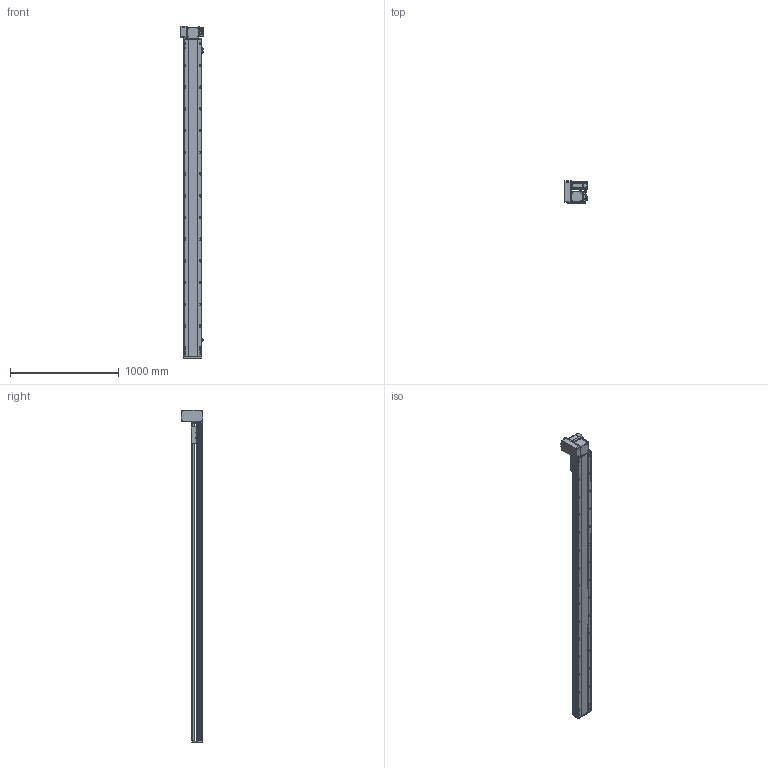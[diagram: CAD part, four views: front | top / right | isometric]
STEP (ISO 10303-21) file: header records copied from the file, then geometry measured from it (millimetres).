
FILE_DESCRIPTION (( 'STEP AP214' ), '1' );
FILE_NAME ('RTB17S-XX-2650-LW-M75-C4.STEP', '2025-12-12T01:18:14', ( '' ), ( '' ), 'SwSTEP 2.0', 'SolidWorks 2018', '' );
FILE_SCHEMA (( 'AUTOMOTIVE_DESIGN' ));
Length unit declared in the file: millimetre
Products named in the file (15): RTB17S-XX-2650-LW-M75-C4; RTB17S-L-001-耜醱啣^RTB17S-XX-XX-LW-M75-C4; RTH13-BL-012覜茼え俋离^RTB17S-賑釱_RTB17S-XX-XX-LW-M75-C4; RTB22S-GY-017P^RTB17S-LW-々湍釱蚾饜-750W_RTB17S-XX-XX-LW-M75-C4; 750W萇儂^RTB17S-XX-XX-LW-M75-C4; RTB22S-GY-008-M75--萇儂啣^RTB17S-LW-々湍釱蚾饜-750W_RTB17S-XX-XX-LW-M75-C4; RTB22S-GY-018P^RTB17S-LW-々湍釱蚾饜-750W_RTB17S-XX-XX-LW-M75-C4; RTB17S-L-004-賑釱^RTB17S-賑釱_RTB17S-XX-XX-LW-M75-C4; RTB17-R-011菁釱^RTB17S-XX-XX-LW-M75-C4; RTB17S-L-007奻裔^RTB17S-XX-XX-LW-M75-C4; EE672^RTB17S-XX-XX-LW-M75-C4; RTB22S-GY-005P^RTB17S-LW-々湍釱蚾饜-750W_RTB17S-XX-XX-LW-M75-C4; RTB17S-LW-々湍釱蚾饜-750W^RTB17S-XX-XX-LW-M75-C4; RTB17S-賑釱^RTB17S-XX-XX-LW-M75-C4; RTB17S-L-014-T20-P75--々湍釱^RTB17S-LW-々湍釱蚾饜-750W_RTB17S-XX-XX-LW-M75-C4
Assembly tree (17 placements, depth 3):
  RTB17S-XX-2650-LW-M75-C4
    RTB17-R-011菁釱^RTB17S-XX-XX-LW-M75-C4
    EE672^RTB17S-XX-XX-LW-M75-C4  x3
    RTB17S-L-001-耜醱啣^RTB17S-XX-XX-LW-M75-C4
    RTB17S-賑釱^RTB17S-XX-XX-LW-M75-C4
      RTB17S-L-004-賑釱^RTB17S-賑釱_RTB17S-XX-XX-LW-M75-C4
      RTH13-BL-012覜茼え俋离^RTB17S-賑釱_RTB17S-XX-XX-LW-M75-C4
    RTB17S-L-007奻裔^RTB17S-XX-XX-LW-M75-C4
    750W萇儂^RTB17S-XX-XX-LW-M75-C4
    RTB17S-LW-々湍釱蚾饜-750W^RTB17S-XX-XX-LW-M75-C4
      RTB17S-L-014-T20-P75--々湍釱^RTB17S-LW-々湍釱蚾饜-750W_RTB17S-XX-XX-LW-M75-C4
      RTB22S-GY-005P^RTB17S-LW-々湍釱蚾饜-750W_RTB17S-XX-XX-LW-M75-C4
      RTB22S-GY-017P^RTB17S-LW-々湍釱蚾饜-750W_RTB17S-XX-XX-LW-M75-C4  x2
      RTB22S-GY-008-M75--萇儂啣^RTB17S-LW-々湍釱蚾饜-750W_RTB17S-XX-XX-LW-M75-C4
      RTB22S-GY-018P^RTB17S-LW-々湍釱蚾饜-750W_RTB17S-XX-XX-LW-M75-C4
Bounding box: 210.4 x 201.5 x 3057.5 mm (x, y, z)
Volume: 22510308.9 mm3; surface area: 4099460.9 mm2
Topology: 17 solids, 17 shells, 2233 faces, 6268 edges, 4058 vertices
Faces by surface type: plane 988, cylinder 829, bspline 294, cone 110, sphere 8, torus 4
Entity records: 65014 total; most frequent: CARTESIAN_POINT 19332, ORIENTED_EDGE 9380, DIRECTION 8672, EDGE_CURVE 4690, AXIS2_PLACEMENT_3D 3078, VERTEX_POINT 3062, VECTOR 2516, LINE 2516
